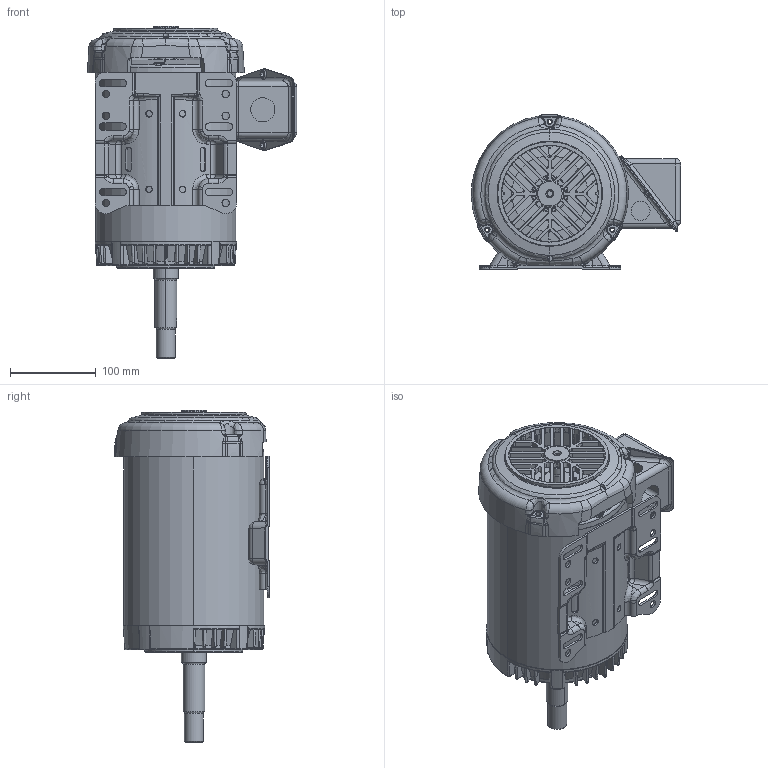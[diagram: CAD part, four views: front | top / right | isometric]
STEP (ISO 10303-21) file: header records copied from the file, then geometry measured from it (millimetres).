
FILE_DESCRIPTION((''),'2;1');
FILE_NAME('140_CCP_ASM_ASM','2016-02-24T',('emd2341'),('Nidec Motor Corporation'),'PRO/ENGINEER BY PARAMETRIC TECHNOLOGY CORPORATION, 2013150','PRO/ENGINEER BY PARAMETRIC TECHNOLOGY CORPORATION, 2013150','');
FILE_SCHEMA(('CONFIG_CONTROL_DESIGN'));
Length unit declared in the file: inch
Products named in the file (15): 145_FRAME; 0399601; 0912536; 0387280-BKT_AF0; I20258935000_AF0; 0387281_ASM; 0343740; B35796439; C18747690_ENCL_AF0; C18747690_INS6_AF0; S33749494_05_ASM; 0345786; 0027197; 0435120; 140_CCP_ASM_ASM
Assembly tree (14 placements, depth 3):
  140_CCP_ASM_ASM
    145_FRAME
    0399601
    0912536
    0387281_ASM
      0387280-BKT_AF0
      I20258935000_AF0
    0343740
    B35796439
    S33749494_05_ASM
      C18747690_ENCL_AF0
      C18747690_INS6_AF0
    0345786
    0027197
    0435120
Bounding box: 244.13 x 180.78 x 387.28 mm (x, y, z)
Volume: 959775.9 mm3; surface area: 634244.7 mm2
Topology: 14 solids, 14 shells, 3038 faces, 7527 edges, 4516 vertices
Faces by surface type: bspline 1091, cylinder 604, plane 602, torus 361, cone 278, sphere 100, revolution 2
Entity records: 134705 total; most frequent: CARTESIAN_POINT 70281, ORIENTED_EDGE 15026, DIRECTION 11482, EDGE_CURVE 7513, AXIS2_PLACEMENT_3D 4878, VERTEX_POINT 4516, EDGE_LOOP 3211, FACE_OUTER_BOUND 3038
